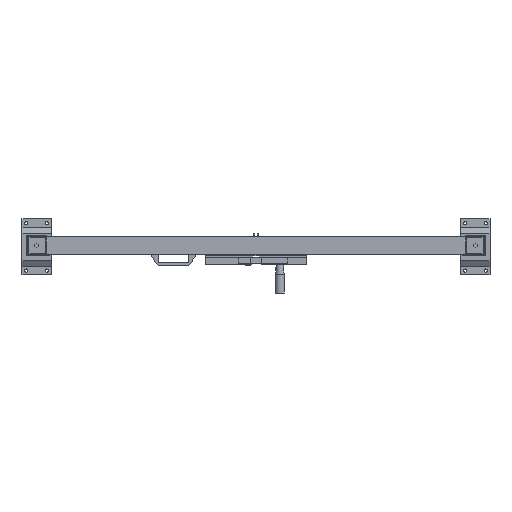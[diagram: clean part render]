
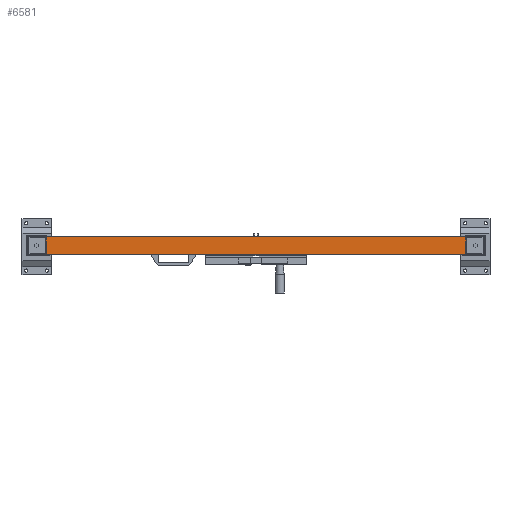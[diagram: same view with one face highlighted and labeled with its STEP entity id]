
A CAD part, top view. The second image highlights one B-rep face of the part: STEP entity #6581.
In plain terms, the highlighted planar face has unit normal (0, 0, 1).
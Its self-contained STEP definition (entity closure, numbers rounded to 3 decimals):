
#714=FACE_OUTER_BOUND('',#1041,.T.);
#1041=EDGE_LOOP('',(#4689,#4690,#4691,#4692));
#1462=LINE('',#9267,#2280);
#1463=LINE('',#9270,#2281);
#1464=LINE('',#9272,#2282);
#1465=LINE('',#9273,#2283);
#2280=VECTOR('',#7488,1.);
#2281=VECTOR('',#7491,1.);
#2282=VECTOR('',#7492,1.);
#2283=VECTOR('',#7493,1.);
#3075=VERTEX_POINT('',#9260);
#3078=VERTEX_POINT('',#9265);
#3079=VERTEX_POINT('',#9269);
#3080=VERTEX_POINT('',#9271);
#3733=EDGE_CURVE('',#3075,#3078,#1462,.T.);
#3734=EDGE_CURVE('',#3079,#3075,#1463,.T.);
#3735=EDGE_CURVE('',#3080,#3078,#1464,.T.);
#3736=EDGE_CURVE('',#3079,#3080,#1465,.T.);
#4689=ORIENTED_EDGE('',*,*,#3734,.T.);
#4690=ORIENTED_EDGE('',*,*,#3733,.T.);
#4691=ORIENTED_EDGE('',*,*,#3735,.F.);
#4692=ORIENTED_EDGE('',*,*,#3736,.F.);
#6296=PLANE('',#6931);
#6581=ADVANCED_FACE('',(#714),#6296,.T.);
#6931=AXIS2_PLACEMENT_3D('',#9268,#7489,#7490);
#7488=DIRECTION('',(1.,0.,0.));
#7489=DIRECTION('center_axis',(0.,0.,1.));
#7490=DIRECTION('ref_axis',(0.,-1.,0.));
#7491=DIRECTION('',(0.,-1.,0.));
#7492=DIRECTION('',(0.,-1.,0.));
#7493=DIRECTION('',(1.,0.,0.));
#9260=CARTESIAN_POINT('',(1904.407,1615.869,2599.));
#9265=CARTESIAN_POINT('',(3344.407,1615.869,2599.));
#9267=CARTESIAN_POINT('',(1904.407,1615.869,2599.));
#9268=CARTESIAN_POINT('Origin',(1904.407,1675.869,2599.));
#9269=CARTESIAN_POINT('',(1904.407,1675.869,2599.));
#9270=CARTESIAN_POINT('',(1904.407,1675.869,2599.));
#9271=CARTESIAN_POINT('',(3344.407,1675.869,2599.));
#9272=CARTESIAN_POINT('',(3344.407,1675.869,2599.));
#9273=CARTESIAN_POINT('',(1904.407,1675.869,2599.));
